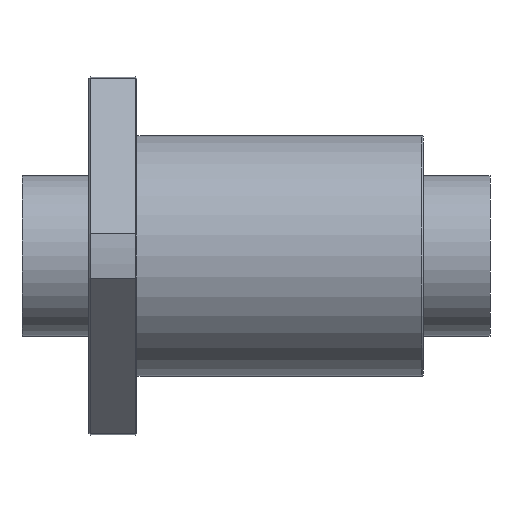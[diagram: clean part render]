
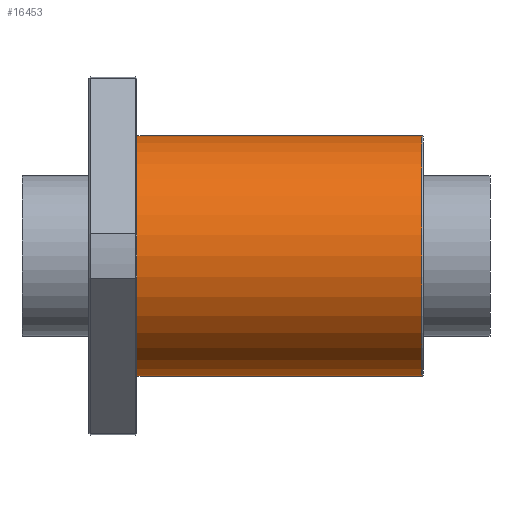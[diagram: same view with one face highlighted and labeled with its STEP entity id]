
A CAD part, left-side view. The second image highlights one B-rep face of the part: STEP entity #16453.
In plain terms, the highlighted cylindrical face has radius 45 mm (diameter 90 mm), a full revolution.
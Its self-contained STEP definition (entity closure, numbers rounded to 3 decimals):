
#2231=CYLINDRICAL_SURFACE('',#16809,45.);
#2341=CIRCLE('',#16561,45.);
#2342=CIRCLE('',#16562,45.);
#2369=CIRCLE('',#16810,45.);
#2370=CIRCLE('',#16811,45.);
#2371=CIRCLE('',#16812,45.);
#3251=FACE_OUTER_BOUND('',#4181,.T.);
#4181=EDGE_LOOP('',(#15313,#15314,#15315,#15316,#15317,#15318,#15319));
#5315=LINE('',#29663,#6443);
#6443=VECTOR('',#18617,45.);
#6521=VERTEX_POINT('',#18874);
#6522=VERTEX_POINT('',#18875);
#8072=VERTEX_POINT('',#29658);
#8073=VERTEX_POINT('',#29659);
#8074=VERTEX_POINT('',#29661);
#8173=EDGE_CURVE('',#6521,#6522,#2341,.T.);
#8174=EDGE_CURVE('',#6522,#6521,#2342,.T.);
#10493=EDGE_CURVE('',#8072,#8073,#2369,.T.);
#10494=EDGE_CURVE('',#8074,#8072,#2370,.T.);
#10495=EDGE_CURVE('',#8074,#6522,#5315,.T.);
#10496=EDGE_CURVE('',#8073,#8074,#2371,.T.);
#15313=ORIENTED_EDGE('',*,*,#10493,.F.);
#15314=ORIENTED_EDGE('',*,*,#10494,.F.);
#15315=ORIENTED_EDGE('',*,*,#10495,.T.);
#15316=ORIENTED_EDGE('',*,*,#8174,.T.);
#15317=ORIENTED_EDGE('',*,*,#8173,.T.);
#15318=ORIENTED_EDGE('',*,*,#10495,.F.);
#15319=ORIENTED_EDGE('',*,*,#10496,.F.);
#16453=ADVANCED_FACE('',(#3251),#2231,.T.);
#16561=AXIS2_PLACEMENT_3D('',#18876,#17023,#17024);
#16562=AXIS2_PLACEMENT_3D('',#18877,#17025,#17026);
#16809=AXIS2_PLACEMENT_3D('',#29657,#18611,#18612);
#16810=AXIS2_PLACEMENT_3D('',#29660,#18613,#18614);
#16811=AXIS2_PLACEMENT_3D('',#29662,#18615,#18616);
#16812=AXIS2_PLACEMENT_3D('',#29664,#18618,#18619);
#17023=DIRECTION('center_axis',(0.,-1.,0.));
#17024=DIRECTION('ref_axis',(1.,0.,0.));
#17025=DIRECTION('center_axis',(0.,-1.,0.));
#17026=DIRECTION('ref_axis',(1.,0.,0.));
#18611=DIRECTION('center_axis',(0.,-1.,0.));
#18612=DIRECTION('ref_axis',(1.,0.,0.));
#18613=DIRECTION('center_axis',(0.,-1.,0.));
#18614=DIRECTION('ref_axis',(1.,0.,0.));
#18615=DIRECTION('center_axis',(0.,-1.,0.));
#18616=DIRECTION('ref_axis',(1.,0.,0.));
#18617=DIRECTION('',(0.,1.,0.));
#18618=DIRECTION('center_axis',(0.,-1.,0.));
#18619=DIRECTION('ref_axis',(1.,0.,0.));
#18874=CARTESIAN_POINT('',(45.,44.5,0.));
#18875=CARTESIAN_POINT('',(-45.,44.5,0.));
#18876=CARTESIAN_POINT('Origin',(0.,44.5,0.));
#18877=CARTESIAN_POINT('Origin',(0.,44.5,0.));
#29657=CARTESIAN_POINT('Origin',(0.,0.,0.));
#29658=CARTESIAN_POINT('',(45.,-62.,0.));
#29659=CARTESIAN_POINT('',(0.,-62.,45.));
#29660=CARTESIAN_POINT('Origin',(0.,-62.,0.));
#29661=CARTESIAN_POINT('',(-45.,-62.,0.));
#29662=CARTESIAN_POINT('Origin',(0.,-62.,0.));
#29663=CARTESIAN_POINT('',(-45.,0.,0.));
#29664=CARTESIAN_POINT('Origin',(0.,-62.,0.));
